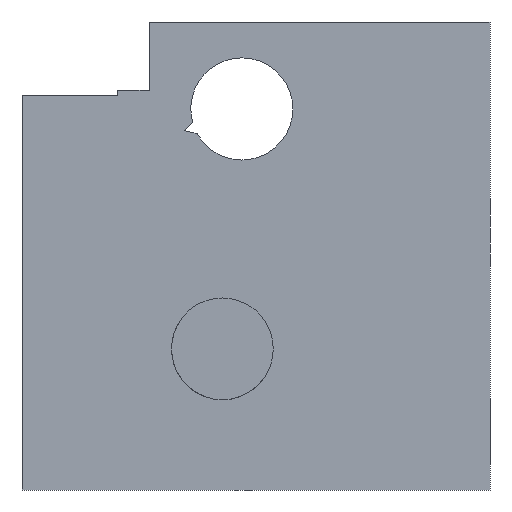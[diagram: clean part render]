
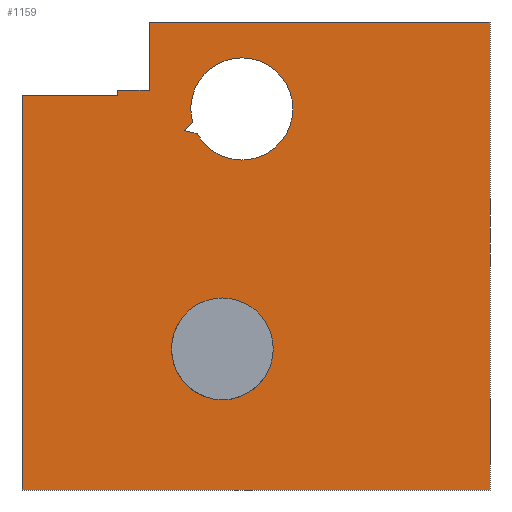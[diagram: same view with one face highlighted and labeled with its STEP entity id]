
A CAD part, front view. The second image highlights one B-rep face of the part: STEP entity #1159.
In plain terms, the highlighted planar face has unit normal (0, -1, 0).
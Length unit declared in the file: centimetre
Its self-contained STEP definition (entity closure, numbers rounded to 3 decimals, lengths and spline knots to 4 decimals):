
#2 = ORIENTED_EDGE ( 'NONE', *, *, #1057, .F. ) ;
#7 = FACE_OUTER_BOUND ( 'NONE', #328, .T. ) ;
#33 = DIRECTION ( 'NONE',  ( -1., 0., 0. ) ) ;
#35 = VECTOR ( 'NONE', #252, 100. ) ;
#38 = EDGE_LOOP ( 'NONE', ( #821, #1049, #138, #55, #1135 ) ) ;
#53 = VECTOR ( 'NONE', #567, 100. ) ;
#54 = DIRECTION ( 'NONE',  ( 1., 0., 0. ) ) ;
#55 = ORIENTED_EDGE ( 'NONE', *, *, #176, .F. ) ;
#63 = VERTEX_POINT ( 'NONE', #1172 ) ;
#91 = ORIENTED_EDGE ( 'NONE', *, *, #938, .F. ) ;
#92 = DIRECTION ( 'NONE',  ( 1., 0., 0. ) ) ;
#93 = EDGE_CURVE ( 'NONE', #874, #125, #306, .T. ) ;
#102 = VERTEX_POINT ( 'NONE', #288 ) ;
#103 = CARTESIAN_POINT ( 'NONE',  ( 364.5146, 0., 785.4664 ) ) ;
#111 = CARTESIAN_POINT ( 'NONE',  ( 346.7525, 0., 767.7043 ) ) ;
#118 = CARTESIAN_POINT ( 'NONE',  ( 204.5438, 0., 842.9148 ) ) ;
#125 = VERTEX_POINT ( 'NONE', #735 ) ;
#137 = EDGE_CURVE ( 'NONE', #287, #517, #264, .T. ) ;
#138 = ORIENTED_EDGE ( 'NONE', *, *, #137, .F. ) ;
#145 = ORIENTED_EDGE ( 'NONE', *, *, #947, .T. ) ;
#148 = VERTEX_POINT ( 'NONE', #103 ) ;
#152 = CARTESIAN_POINT ( 'NONE',  ( 0., 0., 0. ) ) ;
#157 = CARTESIAN_POINT ( 'NONE',  ( 374.2941, 0., 761.4056 ) ) ;
#173 = LINE ( 'NONE', #1182, #865 ) ;
#176 = EDGE_CURVE ( 'NONE', #942, #287, #1092, .T. ) ;
#184 = DIRECTION ( 'NONE',  ( 0., 0., -1. ) ) ;
#193 = LINE ( 'NONE', #928, #1150 ) ;
#197 = CARTESIAN_POINT ( 'NONE',  ( 421.963, 0., 842.9148 ) ) ;
#208 = DIRECTION ( 'NONE',  ( 0., -1., 0. ) ) ;
#210 = VECTOR ( 'NONE', #827, 100. ) ;
#212 = PLANE ( 'NONE',  #793 ) ;
#221 = EDGE_CURVE ( 'NONE', #125, #102, #193, .T. ) ;
#235 = LINE ( 'NONE', #968, #248 ) ;
#238 = ORIENTED_EDGE ( 'NONE', *, *, #756, .F. ) ;
#243 = AXIS2_PLACEMENT_3D ( 'NONE', #1108, #941, #184 ) ;
#248 = VECTOR ( 'NONE', #962, 100. ) ;
#252 = DIRECTION ( 'NONE',  ( 0., 0., 1. ) ) ;
#264 = CIRCLE ( 'NONE', #418, 109.1113 ) ;
#285 = LINE ( 'NONE', #111, #784 ) ;
#287 = VERTEX_POINT ( 'NONE', #568 ) ;
#288 = CARTESIAN_POINT ( 'NONE',  ( 271.6414, 0., 854.1271 ) ) ;
#299 = DIRECTION ( 'NONE',  ( 0., -1., 0. ) ) ;
#306 = LINE ( 'NONE', #118, #210 ) ;
#328 = EDGE_LOOP ( 'NONE', ( #238, #890, #678, #1104, #476, #145, #768, #817 ) ) ;
#331 = LINE ( 'NONE', #871, #806 ) ;
#351 = LINE ( 'NONE', #152, #769 ) ;
#392 = EDGE_CURVE ( 'NONE', #944, #532, #235, .T. ) ;
#418 = AXIS2_PLACEMENT_3D ( 'NONE', #647, #299, #1208 ) ;
#421 = EDGE_CURVE ( 'NONE', #874, #1143, #331, .T. ) ;
#431 = DIRECTION ( 'NONE',  ( 1., 0., 0. ) ) ;
#439 = CARTESIAN_POINT ( 'NONE',  ( 428.1682, 0., 410.2574 ) ) ;
#448 = CARTESIAN_POINT ( 'NONE',  ( 271.6414, 0., 854.1271 ) ) ;
#459 = CIRCLE ( 'NONE', #770, 108.7532 ) ;
#460 = DIRECTION ( 'NONE',  ( 0., 0., 1. ) ) ;
#476 = ORIENTED_EDGE ( 'NONE', *, *, #421, .T. ) ;
#485 = VERTEX_POINT ( 'NONE', #925 ) ;
#517 = VERTEX_POINT ( 'NONE', #852 ) ;
#520 = CARTESIAN_POINT ( 'NONE',  ( 0., 0., 842.9148 ) ) ;
#528 = DIRECTION ( 'NONE',  ( 0., 0., -1. ) ) ;
#532 = VERTEX_POINT ( 'NONE', #669 ) ;
#548 = AXIS2_PLACEMENT_3D ( 'NONE', #1028, #208, #1141 ) ;
#554 = DIRECTION ( 'NONE',  ( -0.975, 0., 0.223 ) ) ;
#567 = DIRECTION ( 'NONE',  ( 0.707, 0., 0.707 ) ) ;
#568 = CARTESIAN_POINT ( 'NONE',  ( 469.7668, 0., 705.1171 ) ) ;
#576 = DIRECTION ( 'NONE',  ( 0., 1., 0. ) ) ;
#594 = VERTEX_POINT ( 'NONE', #883 ) ;
#610 = LINE ( 'NONE', #889, #726 ) ;
#636 = CARTESIAN_POINT ( 'NONE',  ( 346.7525, 0., 767.7043 ) ) ;
#647 = CARTESIAN_POINT ( 'NONE',  ( 469.7668, 0., 814.2284 ) ) ;
#662 = CARTESIAN_POINT ( 'NONE',  ( 204.5438, 0., 842.9148 ) ) ;
#669 = CARTESIAN_POINT ( 'NONE',  ( 1000., 0., 0. ) ) ;
#678 = ORIENTED_EDGE ( 'NONE', *, *, #221, .F. ) ;
#682 = VERTEX_POINT ( 'NONE', #636 ) ;
#716 = CIRCLE ( 'NONE', #989, 108.7532 ) ;
#726 = VECTOR ( 'NONE', #54, 100. ) ;
#733 = LINE ( 'NONE', #197, #53 ) ;
#735 = CARTESIAN_POINT ( 'NONE',  ( 204.5438, 0., 854.1271 ) ) ;
#756 = EDGE_CURVE ( 'NONE', #63, #944, #610, .T. ) ;
#768 = ORIENTED_EDGE ( 'NONE', *, *, #940, .T. ) ;
#769 = VECTOR ( 'NONE', #431, 100. ) ;
#770 = AXIS2_PLACEMENT_3D ( 'NONE', #1187, #913, #528 ) ;
#774 = EDGE_CURVE ( 'NONE', #942, #682, #285, .T. ) ;
#784 = VECTOR ( 'NONE', #554, 100. ) ;
#793 = AXIS2_PLACEMENT_3D ( 'NONE', #835, #576, #460 ) ;
#803 = DIRECTION ( 'NONE',  ( 0., 0., -1. ) ) ;
#806 = VECTOR ( 'NONE', #33, 100. ) ;
#814 = DIRECTION ( 'NONE',  ( 0., -1., 0. ) ) ;
#817 = ORIENTED_EDGE ( 'NONE', *, *, #392, .F. ) ;
#821 = ORIENTED_EDGE ( 'NONE', *, *, #1175, .T. ) ;
#827 = DIRECTION ( 'NONE',  ( 0., 0., 1. ) ) ;
#835 = CARTESIAN_POINT ( 'NONE',  ( 0., 0., 1000. ) ) ;
#841 = CIRCLE ( 'NONE', #548, 109.1113 ) ;
#852 = CARTESIAN_POINT ( 'NONE',  ( 469.7668, 0., 923.3397 ) ) ;
#865 = VECTOR ( 'NONE', #803, 100. ) ;
#871 = CARTESIAN_POINT ( 'NONE',  ( 204.5438, 0., 842.9148 ) ) ;
#874 = VERTEX_POINT ( 'NONE', #662 ) ;
#878 = EDGE_CURVE ( 'NONE', #517, #148, #841, .T. ) ;
#883 = CARTESIAN_POINT ( 'NONE',  ( 0., 0., 0. ) ) ;
#889 = CARTESIAN_POINT ( 'NONE',  ( 0., 0., 1000. ) ) ;
#890 = ORIENTED_EDGE ( 'NONE', *, *, #966, .F. ) ;
#913 = DIRECTION ( 'NONE',  ( 0., -1., 0. ) ) ;
#924 = FACE_BOUND ( 'NONE', #38, .T. ) ;
#925 = CARTESIAN_POINT ( 'NONE',  ( 428.1682, 0., 192.7509 ) ) ;
#928 = CARTESIAN_POINT ( 'NONE',  ( 105.9773, 0., 854.1271 ) ) ;
#938 = EDGE_CURVE ( 'NONE', #960, #485, #459, .T. ) ;
#940 = EDGE_CURVE ( 'NONE', #594, #532, #351, .T. ) ;
#941 = DIRECTION ( 'NONE',  ( 0., -1., 0. ) ) ;
#942 = VERTEX_POINT ( 'NONE', #157 ) ;
#944 = VERTEX_POINT ( 'NONE', #996 ) ;
#947 = EDGE_CURVE ( 'NONE', #1143, #594, #173, .T. ) ;
#960 = VERTEX_POINT ( 'NONE', #439 ) ;
#962 = DIRECTION ( 'NONE',  ( 0., 0., -1. ) ) ;
#966 = EDGE_CURVE ( 'NONE', #102, #63, #1077, .T. ) ;
#968 = CARTESIAN_POINT ( 'NONE',  ( 1000., 0., 1000. ) ) ;
#989 = AXIS2_PLACEMENT_3D ( 'NONE', #1068, #814, #990 ) ;
#990 = DIRECTION ( 'NONE',  ( 0., 0., -1. ) ) ;
#996 = CARTESIAN_POINT ( 'NONE',  ( 1000., 0., 1000. ) ) ;
#1028 = CARTESIAN_POINT ( 'NONE',  ( 469.7668, 0., 814.2284 ) ) ;
#1049 = ORIENTED_EDGE ( 'NONE', *, *, #878, .F. ) ;
#1057 = EDGE_CURVE ( 'NONE', #485, #960, #716, .T. ) ;
#1068 = CARTESIAN_POINT ( 'NONE',  ( 428.1682, 0., 301.5042 ) ) ;
#1077 = LINE ( 'NONE', #448, #35 ) ;
#1092 = CIRCLE ( 'NONE', #243, 109.1113 ) ;
#1104 = ORIENTED_EDGE ( 'NONE', *, *, #93, .F. ) ;
#1108 = CARTESIAN_POINT ( 'NONE',  ( 469.7668, 0., 814.2284 ) ) ;
#1135 = ORIENTED_EDGE ( 'NONE', *, *, #774, .T. ) ;
#1141 = DIRECTION ( 'NONE',  ( 0., 0., -1. ) ) ;
#1143 = VERTEX_POINT ( 'NONE', #520 ) ;
#1150 = VECTOR ( 'NONE', #92, 100. ) ;
#1159 = ADVANCED_FACE ( 'NONE', ( #1210, #924, #7 ), #212, .F. ) ;
#1163 = EDGE_LOOP ( 'NONE', ( #2, #91 ) ) ;
#1172 = CARTESIAN_POINT ( 'NONE',  ( 271.6414, 0., 1000. ) ) ;
#1175 = EDGE_CURVE ( 'NONE', #682, #148, #733, .T. ) ;
#1182 = CARTESIAN_POINT ( 'NONE',  ( 0., 0., 1000. ) ) ;
#1187 = CARTESIAN_POINT ( 'NONE',  ( 428.1682, 0., 301.5042 ) ) ;
#1208 = DIRECTION ( 'NONE',  ( 0., 0., -1. ) ) ;
#1210 = FACE_BOUND ( 'NONE', #1163, .T. ) ;
